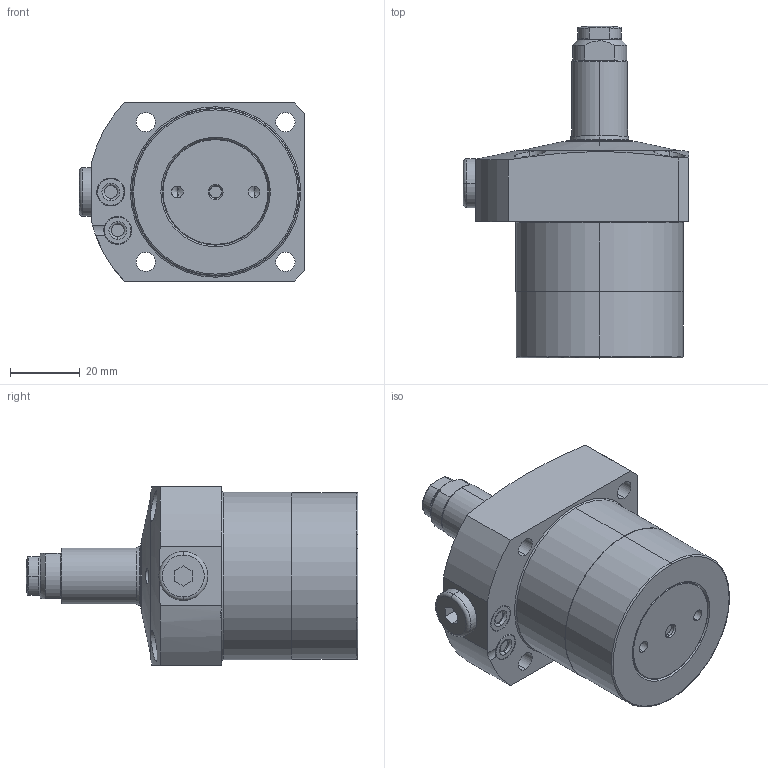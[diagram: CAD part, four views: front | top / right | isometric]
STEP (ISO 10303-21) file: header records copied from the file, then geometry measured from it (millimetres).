
FILE_DESCRIPTION(/* description */ (''),/* implementation_level */ '2;1');
FILE_NAME(/* name */ 'KFSS48-Q.stp',/* time_stamp */ '2026-02-06T10:45:37+08:00',/* author */ (''),/* organization */ (''),/* preprocessor_version */ 'ST-DEVELOPER v16.7',/* originating_system */ 'SIEMENS PLM Software NX 12.0',/* authorisation */ '');
FILE_SCHEMA (('AUTOMOTIVE_DESIGN { 1 0 10303 214 3 1 1 1 }'));
Length unit declared in the file: millimetre
Products named in the file (8): XLC-M10_Oring; XLC-M10_contactbolt; KFSS48-Q-01; KFSS48-Q-04; KFSS48-Q-02; KFSS48-Q-05-P5; KFSS48-Q-03; LC0483-C-EQ_step
Assembly tree (8 placements, depth 3):
  LC0483-C-EQ_step
    KFSS48-Q-05-P5  x2
    KFSS48-Q-02
    KFSS48-Q-03
      XLC-M10_contactbolt
      XLC-M10_Oring
    KFSS48-Q-04
    KFSS48-Q-01
Bounding box: 64.5 x 95 x 51 mm (x, y, z)
Volume: 130685.4 mm3; surface area: 22866.1 mm2
Topology: 7 solids, 7 shells, 243 faces, 544 edges, 328 vertices
Faces by surface type: cylinder 81, torus 60, plane 55, cone 45, sphere 2
Entity records: 7034 total; most frequent: CARTESIAN_POINT 1465, DIRECTION 1248, ORIENTED_EDGE 1024, AXIS2_PLACEMENT_3D 541, EDGE_CURVE 512, VERTEX_POINT 314, CIRCLE 301, EDGE_LOOP 264
